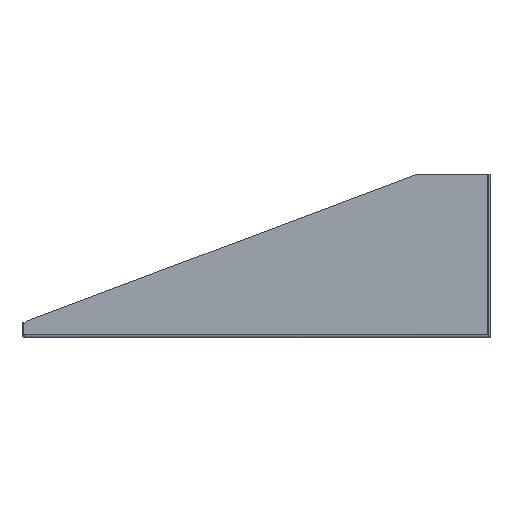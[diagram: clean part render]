
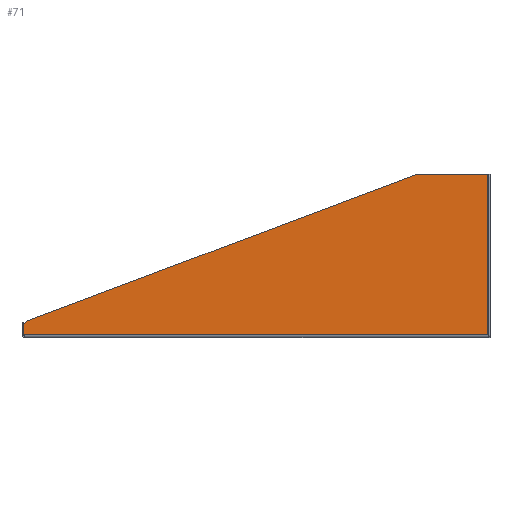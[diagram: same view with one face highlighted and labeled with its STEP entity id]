
A CAD part, left-side view. The second image highlights one B-rep face of the part: STEP entity #71.
In plain terms, the highlighted planar face has unit normal (-1, 0, 0).
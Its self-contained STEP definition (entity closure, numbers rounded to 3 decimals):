
#71 = ADVANCED_FACE( '', ( #1105 ), #1106, .F. );
#1105 = FACE_OUTER_BOUND( '', #2903, .T. );
#1106 = PLANE( '', #2904 );
#2903 = EDGE_LOOP( '', ( #5739, #5740, #5741, #5742, #5743, #5744, #5745, #5746 ) );
#2904 = AXIS2_PLACEMENT_3D( '', #5747, #5748, #5749 );
#5739 = ORIENTED_EDGE( '', *, *, #11858, .T. );
#5740 = ORIENTED_EDGE( '', *, *, #11860, .T. );
#5741 = ORIENTED_EDGE( '', *, *, #11867, .T. );
#5742 = ORIENTED_EDGE( '', *, *, #11868, .F. );
#5743 = ORIENTED_EDGE( '', *, *, #11869, .F. );
#5744 = ORIENTED_EDGE( '', *, *, #11870, .T. );
#5745 = ORIENTED_EDGE( '', *, *, #11871, .T. );
#5746 = ORIENTED_EDGE( '', *, *, #11872, .T. );
#5747 = CARTESIAN_POINT( '', ( -222.25, -253.086, 1.587 ) );
#5748 = DIRECTION( '', ( 1., 0., 0. ) );
#5749 = DIRECTION( '', ( 0., 0., -1. ) );
#11858 = EDGE_CURVE( '', #15198, #15196, #15199, .T. );
#11860 = EDGE_CURVE( '', #15196, #15175, #15201, .T. );
#11867 = EDGE_CURVE( '', #15175, #15159, #15211, .T. );
#11868 = EDGE_CURVE( '', #15212, #15159, #15213, .T. );
#11869 = EDGE_CURVE( '', #15214, #15212, #15215, .T. );
#11870 = EDGE_CURVE( '', #15214, #15216, #15217, .T. );
#11871 = EDGE_CURVE( '', #15216, #15218, #15219, .T. );
#11872 = EDGE_CURVE( '', #15218, #15198, #15220, .F. );
#15159 = VERTEX_POINT( '', #19281 );
#15175 = VERTEX_POINT( '', #19307 );
#15196 = VERTEX_POINT( '', #19370 );
#15198 = VERTEX_POINT( '', #19373 );
#15199 = LINE( '', #19374, #19375 );
#15201 = CIRCLE( '', #19378, 1.397 );
#15211 = LINE( '', #19423, #19424 );
#15212 = VERTEX_POINT( '', #19425 );
#15213 = LINE( '', #19426, #19427 );
#15214 = VERTEX_POINT( '', #19428 );
#15215 = LINE( '', #19429, #19430 );
#15216 = VERTEX_POINT( '', #19431 );
#15217 = LINE( '', #19432, #19433 );
#15218 = VERTEX_POINT( '', #19434 );
#15219 = LINE( '', #19435, #19436 );
#15220 = LINE( '', #19437, #19438 );
#19281 = CARTESIAN_POINT( '', ( -222.25, -252.171, 2.743 ) );
#19307 = CARTESIAN_POINT( '', ( -222.25, 250.714, 2.743 ) );
#19370 = CARTESIAN_POINT( '', ( -222.25, 251.255, 2.963 ) );
#19373 = CARTESIAN_POINT( '', ( -222.25, 251.255, 14.531 ) );
#19374 = CARTESIAN_POINT( '', ( -222.25, 251.255, 176.987 ) );
#19375 = VECTOR( '', #23590, 1000. );
#19378 = AXIS2_PLACEMENT_3D( '', #23592, #23593, #23594 );
#19423 = CARTESIAN_POINT( '', ( -222.25, 253.086, 2.743 ) );
#19424 = VECTOR( '', #23605, 1000. );
#19425 = CARTESIAN_POINT( '', ( -222.25, -252.171, 2.745 ) );
#19426 = CARTESIAN_POINT( '', ( -222.25, -252.171, 2.745 ) );
#19427 = VECTOR( '', #23606, 1000. );
#19428 = CARTESIAN_POINT( '', ( -222.25, -252.171, 176.987 ) );
#19429 = CARTESIAN_POINT( '', ( -222.25, -252.171, 2.745 ) );
#19430 = VECTOR( '', #23607, 1000. );
#19431 = CARTESIAN_POINT( '', ( -222.25, -174.981, 176.987 ) );
#19432 = CARTESIAN_POINT( '', ( -222.25, -253.086, 176.987 ) );
#19433 = VECTOR( '', #23608, 1000. );
#19434 = CARTESIAN_POINT( '', ( -222.25, 247.994, 17.791 ) );
#19435 = CARTESIAN_POINT( '', ( -222.25, -185.57, 180.973 ) );
#19436 = VECTOR( '', #23609, 1000. );
#19437 = CARTESIAN_POINT( '', ( -222.25, 247.994, 17.791 ) );
#19438 = VECTOR( '', #23610, 1000. );
#23590 = DIRECTION( '', ( 0., 0., -1. ) );
#23592 = CARTESIAN_POINT( '', ( -222.25, 251.498, 1.587 ) );
#23593 = DIRECTION( '', ( 1., 0., 0. ) );
#23594 = DIRECTION( '', ( 0., 1., 0. ) );
#23605 = DIRECTION( '', ( 0., -1., 0. ) );
#23606 = DIRECTION( '', ( 0., 0., -1. ) );
#23607 = DIRECTION( '', ( 0., 0., -1. ) );
#23608 = DIRECTION( '', ( 0., 1., 0. ) );
#23609 = DIRECTION( '', ( 0., 0.936, -0.352 ) );
#23610 = DIRECTION( '', ( 0., -0.707, 0.707 ) );
